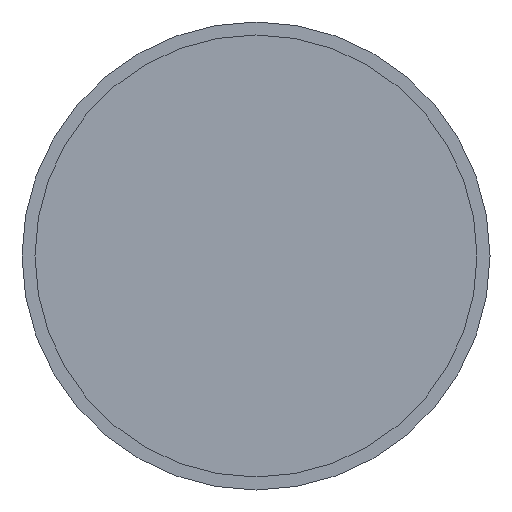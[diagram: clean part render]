
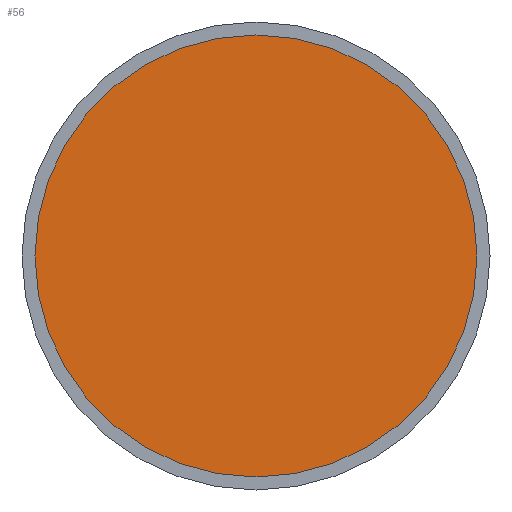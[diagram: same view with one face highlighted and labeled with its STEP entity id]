
A CAD part, front view. The second image highlights one B-rep face of the part: STEP entity #56.
In plain terms, the highlighted planar face has unit normal (0, -1, 0).
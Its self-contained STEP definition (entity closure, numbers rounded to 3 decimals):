
#56=ADVANCED_FACE('',(#93),#95,.T.);
#93=FACE_BOUND('',#94,.T.);
#94=EDGE_LOOP('',(#204));
#95=PLANE('',#96);
#96=AXIS2_PLACEMENT_3D('',#97,#98,#99);
#97=CARTESIAN_POINT('',(0.,-92.,0.));
#98=DIRECTION('',(0.,-1.,0.));
#99=DIRECTION('',(0.,0.,-1.));
#204=ORIENTED_EDGE('',*,*,#229,.T.);
#229=EDGE_CURVE('',#244,#244,#245,.T.);
#244=VERTEX_POINT('',#274);
#245=CIRCLE('',#275,25.5);
#274=CARTESIAN_POINT('',(0.,-92.,25.5));
#275=AXIS2_PLACEMENT_3D('',#276,#277,#278);
#276=CARTESIAN_POINT('',(0.,-92.,0.));
#277=DIRECTION('',(0.,-1.,0.));
#278=DIRECTION('',(0.,0.,1.));
